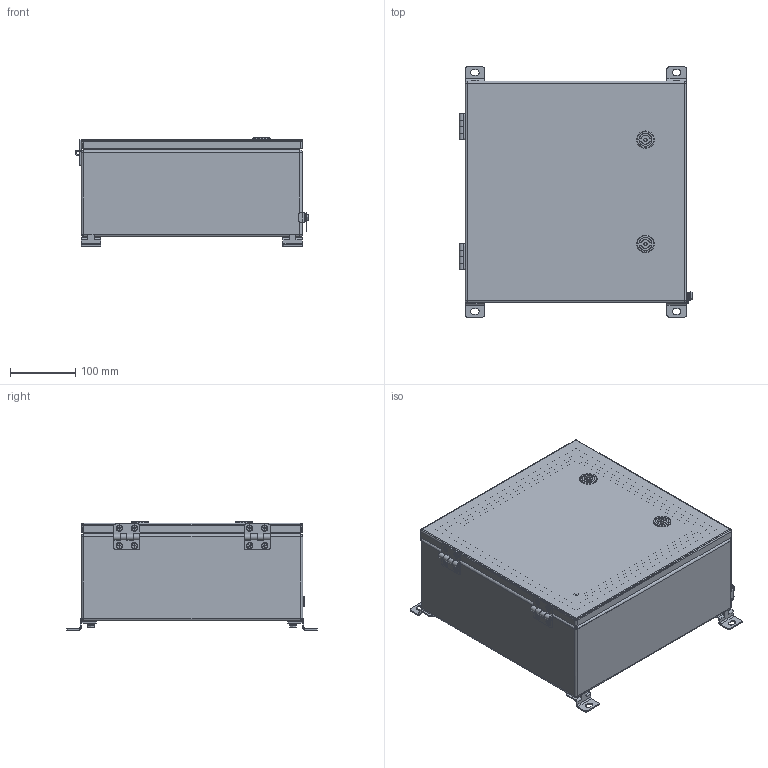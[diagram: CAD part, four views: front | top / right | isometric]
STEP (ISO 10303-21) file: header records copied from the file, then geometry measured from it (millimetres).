
FILE_DESCRIPTION((''),'2;1');
FILE_NAME('D:\WORKS\Чертежи\ТЗ\05.24\105089\КСРВ-Н343415_ПЕТЛЯ_ЗАМОК_3d.stp','2024-05-14T07:09:49',('t.v.ogurnaya'),(''),'Autodesk Inventor 2012','Autodesk Inventor 2012','');
FILE_SCHEMA(('AUTOMOTIVE_DESIGN { 1 0 10303 214 1 1 1 1 }'));
Length unit declared in the file: millimetre
Products named in the file (1): КСРВ-Н343415_М6_ЗАМОК_Внешний контур_1
Bounding box: 358.69 x 384 x 166 mm (x, y, z)
Surface area: 1061896.7 mm2 (no closed solid volume)
Topology: 0 solids, 70 shells, 1299 faces, 2951 edges, 1881 vertices
Faces by surface type: plane 624, cylinder 395, cone 180, torus 70, sphere 26, bspline 4
Full cylindrical faces by diameter (mm): 0.8 x6, 1 x6, 3.242 x12, 3.571 x8, 4 x8, 4.917 x9, 5 x10, 5.459 x5, 5.9 x16, 6 x11, 6.1 x4, 6.4 x9, 6.5 x1, 6.9 x4, 7 x8, 7.5 x11, 8 x1, 8.4 x8, 8.7 x5, 9 x15, 12 x19, 20 x2, 22 x4, 27 x2
Entity records: 36501 total; most frequent: CARTESIAN_POINT 7196, DIRECTION 5914, ORIENTED_EDGE 5162, EDGE_CURVE 2581, AXIS2_PLACEMENT_3D 2373, VERTEX_POINT 1827, EDGE_LOOP 1798, FACE_OUTER_BOUND 1299
